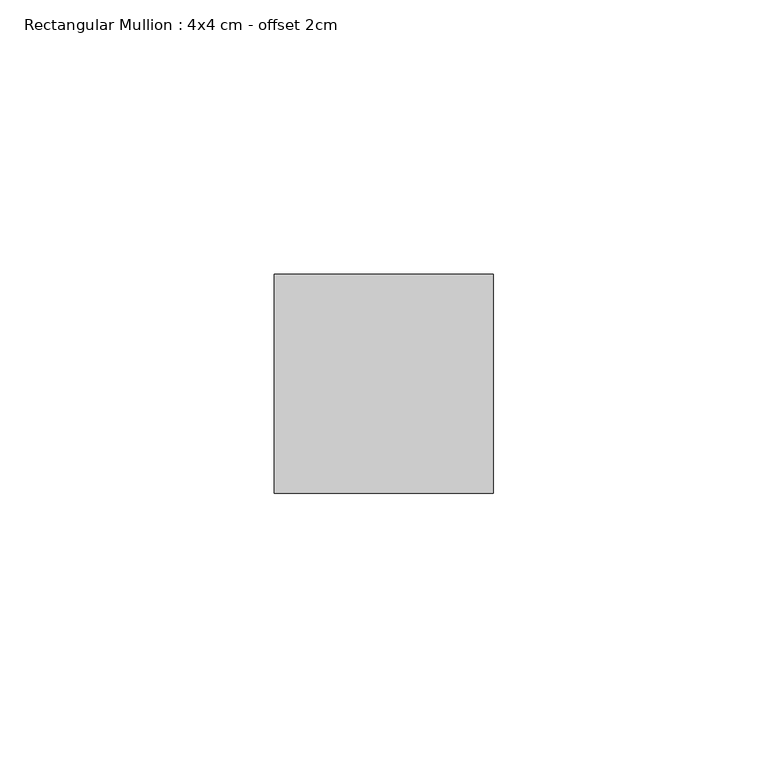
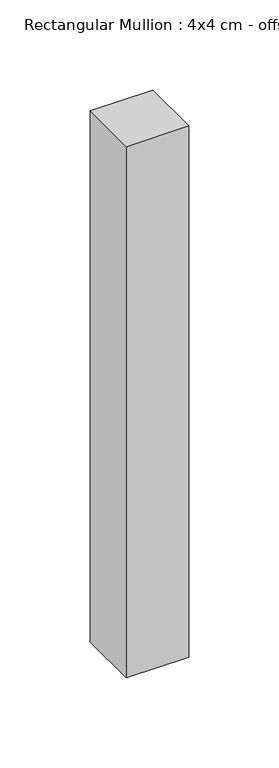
"""IFC4 building model written with IfcOpenShell, lengths in millimetres: member geometry, Rectangular Mullion : 4x4 cm - offset 2cm."""

from ifc_helpers import new_model, si_unit, frame, origin, place, context, project, spatial, polyline, outline, extrude, source, transform, mapped, element, save


def rectangular_mullion_4x4_cm_offset_2cm_b066c65d(model_context):
    return source(origin(), model_context, "Body", "SweptSolid", [
        extrude(outline(polyline([(40.0, 40.0), (40.0, 0.0), (0.0, 0.0), (0.0, 40.0), (40.0, 40.0)])), frame((0.0, 0.0, -359.9999997), z_axis=(0.0, 0.0, 1.0), x_axis=(1.0, 0.0, 0.0)), (0.0, 0.0, 1.0), 359.9999997),
    ])


if __name__ == "__main__":
    model = new_model("IFC4")
    model_context = context("Model", 3, world=origin())
    ifc_project = project(units=[si_unit("LENGTHUNIT", "METRE", prefix="MILLI")], contexts=[model_context])
    site = spatial("IfcSite", under=ifc_project)
    building = spatial("IfcBuilding", under=site)
    placement = place(None, origin())
    rectangular_mullion_4x4_cm_offset_2cm_shape = rectangular_mullion_4x4_cm_offset_2cm_b066c65d(model_context)
    element("IfcMember", 1, ObjectType="Rectangular Mullion : 4x4 cm - offset 2cm", at=placement, inside=building, context=model_context, shape_type="MappedRepresentation", body=[
        mapped(rectangular_mullion_4x4_cm_offset_2cm_shape, transform((0.0, 0.0, 0.0), x_axis=(1.0, 0.0, 0.0), y_axis=(0.0, 1.0, 0.0), z_axis=(0.0, 0.0, 1.0))),
    ])
    save(model, "model.ifc")
